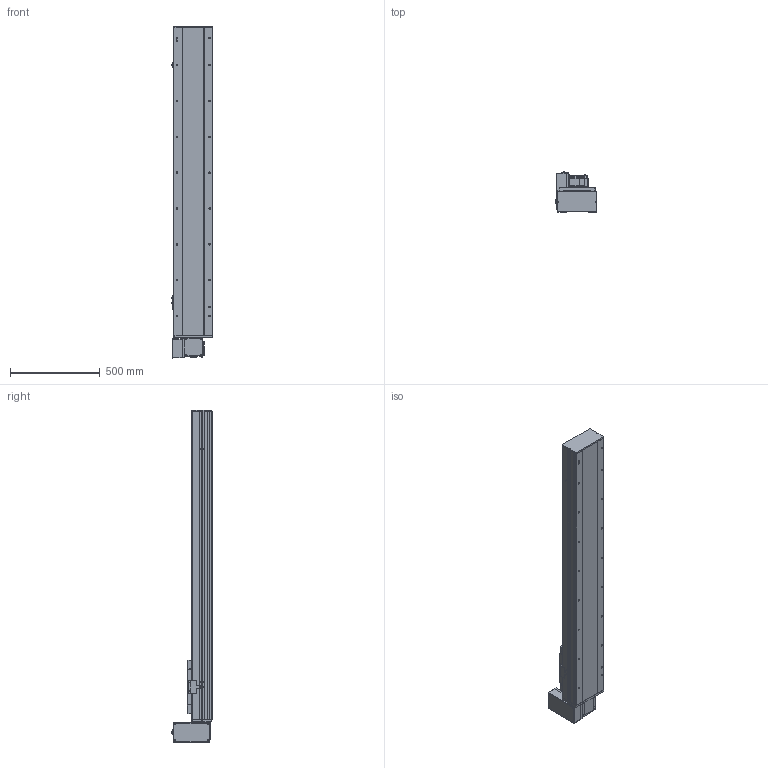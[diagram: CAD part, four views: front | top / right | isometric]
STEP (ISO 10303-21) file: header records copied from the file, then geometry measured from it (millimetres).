
FILE_DESCRIPTION (( 'STEP AP214' ), '1' );
FILE_NAME ('TPE22-L40-1300-RU-T75-C4.STEP', '2023-04-13T01:29:10', ( '' ), ( '' ), 'SwSTEP 2.0', 'SolidWorks 2020', '' );
FILE_SCHEMA (( 'AUTOMOTIVE_DESIGN' ));
Length unit declared in the file: millimetre
Products named in the file (10): 葩璃 pm-t65-672^TPE22-L40-RU-T75-C4; 葩璃 TPE22-L-007 々湍釱^TPE22-L40-RU-T75-C4; 葩璃 TPT22-L-009 萇儂啣^TPE22-L40-RU-T75-C4; hexagon head bolts-full thread gb_GB_FASTENER_BOLT_STBAB A M5X16-N; TPE22-L40-1300-RU-T75-C4; 葩璃 TPE22 賑雄殤^TPE22-L40-RU-T75-C4; 葩璃 詩湍150^TPE22-L40-RU-T75-C4; 葩璃 TPE22-L-002 耜裔ZTMZ-220-04^TPE22-L40-RU-T75-C4; 葩璃 TPE22-L-001 菁釱MZ-220-01^TPE22-L40-RU-T75-C4; 葩璃 MSMD08PC_P75^TPE22-L40-RU-T75-C4
Assembly tree (12 placements, depth 2):
  TPE22-L40-1300-RU-T75-C4
    葩璃 TPE22-L-001 菁釱MZ-220-01^TPE22-L40-RU-T75-C4
    葩璃 TPE22-L-002 耜裔ZTMZ-220-04^TPE22-L40-RU-T75-C4  x2
    葩璃 詩湍150^TPE22-L40-RU-T75-C4
    葩璃 TPE22-L-007 々湍釱^TPE22-L40-RU-T75-C4
    葩璃 TPT22-L-009 萇儂啣^TPE22-L40-RU-T75-C4
    葩璃 TPE22 賑雄殤^TPE22-L40-RU-T75-C4
    葩璃 pm-t65-672^TPE22-L40-RU-T75-C4  x3
    葩璃 MSMD08PC_P75^TPE22-L40-RU-T75-C4
    hexagon head bolts-full thread gb_GB_FASTENER_BOLT_STBAB A M5X16-N
Bounding box: 233.7 x 223.65 x 1852 mm (x, y, z)
Volume: 20845010.6 mm3; surface area: 3093887.6 mm2
Topology: 22 solids, 22 shells, 1757 faces, 4619 edges, 2945 vertices
Faces by surface type: plane 1039, cylinder 576, cone 112, bspline 30
Entity records: 49658 total; most frequent: CARTESIAN_POINT 10271, DIRECTION 7810, ORIENTED_EDGE 7718, EDGE_CURVE 3859, VECTOR 2632, LINE 2632, AXIS2_PLACEMENT_3D 2589, VERTEX_POINT 2489
